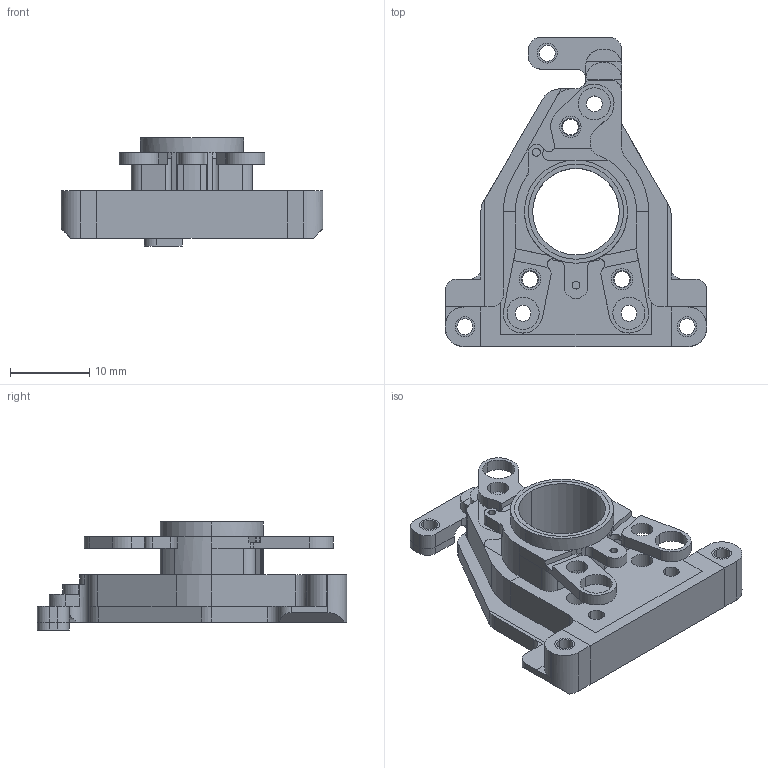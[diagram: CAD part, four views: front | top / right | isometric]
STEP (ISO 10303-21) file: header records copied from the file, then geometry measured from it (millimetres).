
FILE_DESCRIPTION(/* description */ ('(C) Elphel, Inc. 2011. Licensed under CERN OHL v.1.1 or later, see http://ohwr.org/cernohl'),/* implementation_level */ '2;1');
FILE_NAME(/* name */ '0353-19-64A',/* time_stamp */ '2012-01-01T16:01:30-07:00',/* author */ (''),/* organization */ ('Elphel, Inc'),/* preprocessor_version */ 'ST-DEVELOPER v12',/* originating_system */ 'VariCAD 2010-3.03; kernel version (20100102)',/* authorisation */ '');
FILE_SCHEMA (('AUTOMOTIVE_DESIGN'));
Length unit declared in the file: millimetre
Products named in the file (1): Part
Bounding box: 33 x 39 x 13.65 mm (x, y, z)
Volume: 3546.3 mm3; surface area: 4689.1 mm2
Topology: 5 solids, 5 shells, 295 faces, 769 edges, 489 vertices
Faces by surface type: cylinder 142, plane 133, cone 20
Entity records: 11358 total; most frequent: DIRECTION 1692, CARTESIAN_POINT 1625, ORIENTED_EDGE 1538, EDGE_CURVE 769, AXIS2_PLACEMENT_3D 631, VERTEX_POINT 489, LINE 430, VECTOR 430
